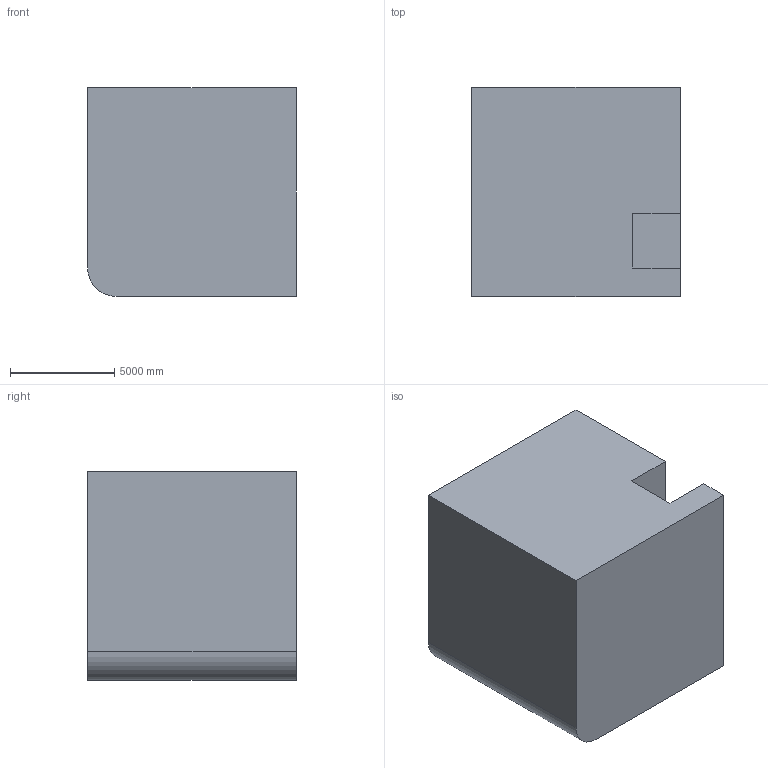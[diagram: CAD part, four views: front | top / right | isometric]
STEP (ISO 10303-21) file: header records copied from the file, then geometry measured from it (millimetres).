
FILE_DESCRIPTION (( 'STEP AP203' ), '1' );
FILE_NAME ('1191.STEP', '2022-08-18T13:07:09', ( 'user' ), ( '' ), 'SwSTEP 2.0', 'SolidWorks 2021', '' );
FILE_SCHEMA (( 'CONFIG_CONTROL_DESIGN' ));
Length unit declared in the file: centimetre
Products named in the file (1): 1191
Bounding box: 10000 x 10000 x 10000 mm (x, y, z)
Volume: 970236100620.9 mm3; surface area: 613102494.9 mm2
Topology: 1 solids, 1 shells, 11 faces, 27 edges, 18 vertices
Faces by surface type: plane 10, cylinder 1
Entity records: 400 total; most frequent: CARTESIAN_POINT 57, ORIENTED_EDGE 54, DIRECTION 53, EDGE_CURVE 27, VECTOR 25, LINE 25, VERTEX_POINT 18, AXIS2_PLACEMENT_3D 14
